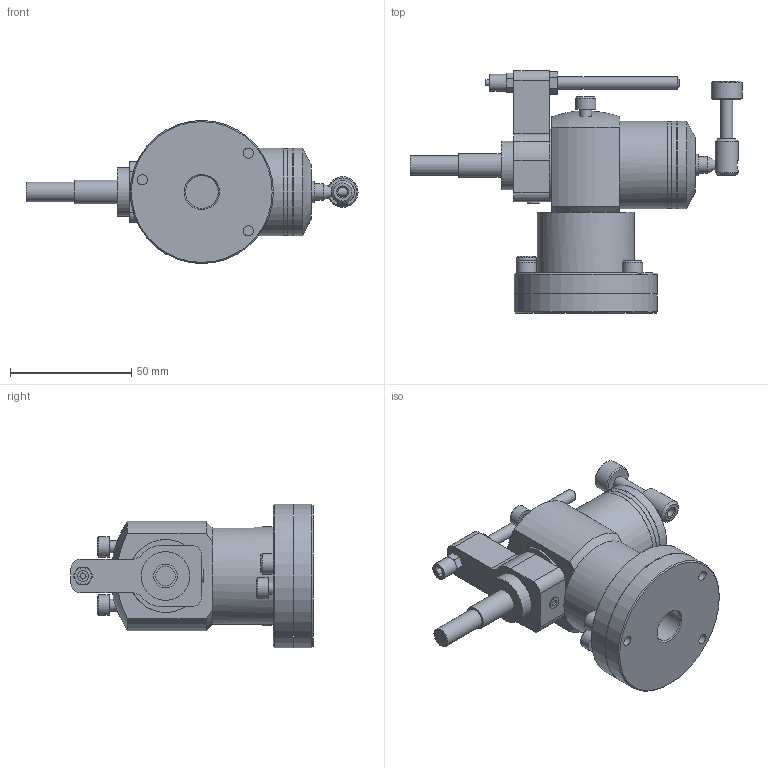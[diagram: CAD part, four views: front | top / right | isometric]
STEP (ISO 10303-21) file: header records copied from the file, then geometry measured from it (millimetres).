
FILE_DESCRIPTION(/* description */ (''),/* implementation_level */ '2;1');
FILE_NAME(/* name */ '',/* time_stamp */ '2024-10-24T10:22:38+03:00',/* author */ ('OborotistovI'),/* organization */ (''),/* preprocessor_version */ 'ST-DEVELOPER v19.2',/* originating_system */ 'Autodesk Inventor 2024',/* authorisation */ '');
FILE_SCHEMA (('AUTOMOTIVE_DESIGN { 1 0 10303 214 3 1 1 }'));
Length unit declared in the file: millimetre
Products named in the file (1): Контактный датчик 
коррекции длины 
режущего инструмента 
 WENTAO WT-12.7
Bounding box: 136.75 x 99.8 x 59 mm (x, y, z)
Volume: 172017.8 mm3; surface area: 34137.2 mm2
Topology: 1 solids, 2 shells, 221 faces, 501 edges, 326 vertices
Faces by surface type: plane 141, cylinder 56, cone 22, bspline 2
Full cylindrical faces by diameter (mm): 2.5 x1, 3.5 x3, 4 x3, 4.2 x3, 4.5 x1, 5 x6, 7 x2, 8 x1, 8.4 x6, 9 x1, 9.5 x1, 9.8 x1, 12.6 x1, 13.5 x1, 20 x1, 26.139 x1, 30 x1, 35.8 x1, 36 x3, 39 x1, 40 x1, 59 x2
Entity records: 6939 total; most frequent: CARTESIAN_POINT 1629, DIRECTION 1080, ORIENTED_EDGE 1000, EDGE_CURVE 500, AXIS2_PLACEMENT_3D 389, VERTEX_POINT 326, LINE 302, VECTOR 302
